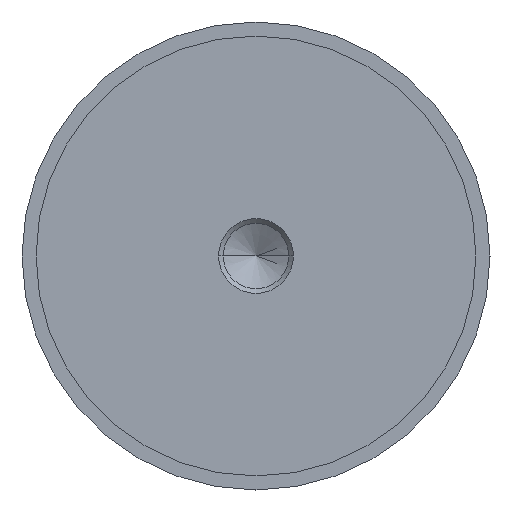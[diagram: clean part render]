
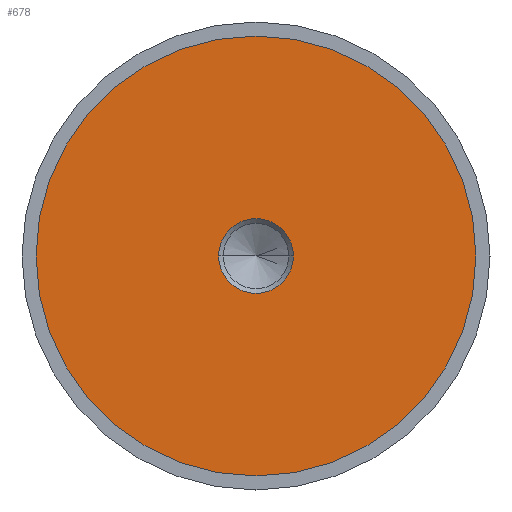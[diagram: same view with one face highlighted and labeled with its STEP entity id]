
A CAD part, left-side view. The second image highlights one B-rep face of the part: STEP entity #678.
In plain terms, the highlighted planar face has unit normal (-1, 0, 0).
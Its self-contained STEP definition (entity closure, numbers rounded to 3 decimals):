
#9 = AXIS2_PLACEMENT_3D ( 'NONE', #639, #460, #272 ) ;
#26 = ORIENTED_EDGE ( 'NONE', *, *, #502, .T. ) ;
#40 = VERTEX_POINT ( 'NONE', #249 ) ;
#49 = ORIENTED_EDGE ( 'NONE', *, *, #308, .T. ) ;
#58 = ORIENTED_EDGE ( 'NONE', *, *, #72, .T. ) ;
#63 = CARTESIAN_POINT ( 'NONE',  ( -27.49, 0., 0. ) ) ;
#72 = EDGE_CURVE ( 'NONE', #40, #700, #116, .T. ) ;
#86 = CARTESIAN_POINT ( 'NONE',  ( -27.49, 0., 0. ) ) ;
#116 = CIRCLE ( 'NONE', #307, 7.99 ) ;
#149 = DIRECTION ( 'NONE',  ( -1., 0., 0. ) ) ;
#152 = ORIENTED_EDGE ( 'NONE', *, *, #181, .T. ) ;
#173 = EDGE_LOOP ( 'NONE', ( #58, #49 ) ) ;
#181 = EDGE_CURVE ( 'NONE', #774, #405, #737, .T. ) ;
#192 = DIRECTION ( 'NONE',  ( 1., 0., 0. ) ) ;
#249 = CARTESIAN_POINT ( 'NONE',  ( -27.49, -7.99, 0. ) ) ;
#272 = DIRECTION ( 'NONE',  ( 0., 0., 1. ) ) ;
#307 = AXIS2_PLACEMENT_3D ( 'NONE', #63, #320, #554 ) ;
#308 = EDGE_CURVE ( 'NONE', #700, #40, #381, .T. ) ;
#320 = DIRECTION ( 'NONE',  ( 1., 0., 0. ) ) ;
#337 = DIRECTION ( 'NONE',  ( 0., 0., 1. ) ) ;
#378 = CARTESIAN_POINT ( 'NONE',  ( -27.49, 0., -47. ) ) ;
#381 = CIRCLE ( 'NONE', #508, 7.99 ) ;
#398 = AXIS2_PLACEMENT_3D ( 'NONE', #426, #192, #429 ) ;
#405 = VERTEX_POINT ( 'NONE', #599 ) ;
#406 = FACE_BOUND ( 'NONE', #173, .T. ) ;
#413 = DIRECTION ( 'NONE',  ( 0., 0., -1. ) ) ;
#424 = PLANE ( 'NONE',  #398 ) ;
#426 = CARTESIAN_POINT ( 'NONE',  ( -27.49, 47., 0. ) ) ;
#429 = DIRECTION ( 'NONE',  ( 0., 0., -1. ) ) ;
#460 = DIRECTION ( 'NONE',  ( -1., 0., 0. ) ) ;
#488 = EDGE_LOOP ( 'NONE', ( #26, #152 ) ) ;
#502 = EDGE_CURVE ( 'NONE', #405, #774, #618, .T. ) ;
#508 = AXIS2_PLACEMENT_3D ( 'NONE', #643, #720, #413 ) ;
#538 = CARTESIAN_POINT ( 'NONE',  ( -27.49, 7.99, 0. ) ) ;
#554 = DIRECTION ( 'NONE',  ( 0., 0., -1. ) ) ;
#599 = CARTESIAN_POINT ( 'NONE',  ( -27.49, 0., 47. ) ) ;
#618 = CIRCLE ( 'NONE', #725, 47. ) ;
#639 = CARTESIAN_POINT ( 'NONE',  ( -27.49, 0., 0. ) ) ;
#643 = CARTESIAN_POINT ( 'NONE',  ( -27.49, 0., 0. ) ) ;
#648 = FACE_OUTER_BOUND ( 'NONE', #488, .T. ) ;
#678 = ADVANCED_FACE ( 'NONE', ( #406, #648 ), #424, .F. ) ;
#700 = VERTEX_POINT ( 'NONE', #538 ) ;
#720 = DIRECTION ( 'NONE',  ( 1., 0., 0. ) ) ;
#725 = AXIS2_PLACEMENT_3D ( 'NONE', #86, #149, #337 ) ;
#737 = CIRCLE ( 'NONE', #9, 47. ) ;
#774 = VERTEX_POINT ( 'NONE', #378 ) ;
